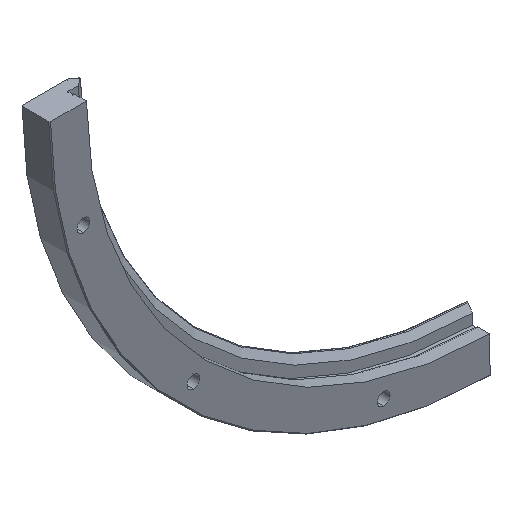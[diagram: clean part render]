
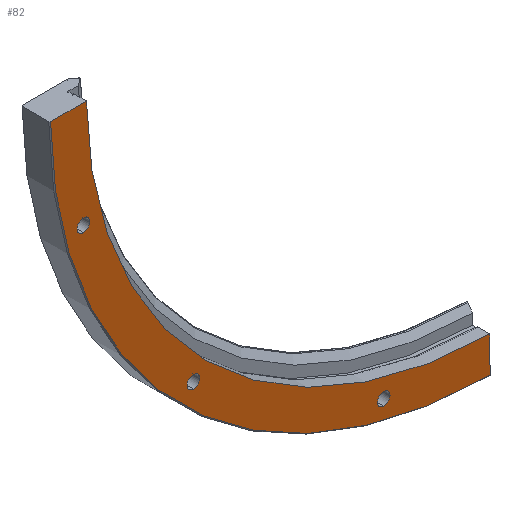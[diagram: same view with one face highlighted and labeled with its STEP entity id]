
A CAD part, isometric view. The second image highlights one B-rep face of the part: STEP entity #82.
In plain terms, the highlighted planar face has unit normal (0, -1, 0).
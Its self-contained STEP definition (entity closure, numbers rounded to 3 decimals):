
#82=ADVANCED_FACE('',(#120,#121,#122,#123),#124,.T.);
#120=FACE_OUTER_BOUND('',#189,.T.);
#121=FACE_BOUND('',#190,.T.);
#122=FACE_BOUND('',#191,.T.);
#123=FACE_BOUND('',#192,.T.);
#124=PLANE('',#193);
#189=EDGE_LOOP('',(#293,#294,#295,#296));
#190=EDGE_LOOP('',(#297,#298));
#191=EDGE_LOOP('',(#299,#300));
#192=EDGE_LOOP('',(#301,#302));
#193=AXIS2_PLACEMENT_3D('',#303,#304,#305);
#293=ORIENTED_EDGE('',*,*,#512,.F.);
#294=ORIENTED_EDGE('',*,*,#513,.T.);
#295=ORIENTED_EDGE('',*,*,#514,.F.);
#296=ORIENTED_EDGE('',*,*,#515,.F.);
#297=ORIENTED_EDGE('',*,*,#516,.T.);
#298=ORIENTED_EDGE('',*,*,#500,.T.);
#299=ORIENTED_EDGE('',*,*,#517,.T.);
#300=ORIENTED_EDGE('',*,*,#508,.T.);
#301=ORIENTED_EDGE('',*,*,#518,.T.);
#302=ORIENTED_EDGE('',*,*,#492,.T.);
#303=CARTESIAN_POINT('',(-240.75,-12.325,0.0));
#304=DIRECTION('',(0.0,-1.0,0.0));
#305=DIRECTION('',(0.0,0.0,-1.0));
#492=EDGE_CURVE('',#575,#576,#577,.T.);
#500=EDGE_CURVE('',#591,#592,#593,.T.);
#508=EDGE_CURVE('',#607,#608,#609,.T.);
#512=EDGE_CURVE('',#615,#616,#617,.T.);
#513=EDGE_CURVE('',#615,#618,#619,.T.);
#514=EDGE_CURVE('',#620,#618,#621,.T.);
#515=EDGE_CURVE('',#616,#620,#622,.T.);
#516=EDGE_CURVE('',#592,#591,#623,.T.);
#517=EDGE_CURVE('',#608,#607,#624,.T.);
#518=EDGE_CURVE('',#576,#575,#625,.T.);
#575=VERTEX_POINT('',#712);
#576=VERTEX_POINT('',#713);
#577=CIRCLE('',#714,3.4);
#591=VERTEX_POINT('',#732);
#592=VERTEX_POINT('',#733);
#593=CIRCLE('',#734,3.4);
#607=VERTEX_POINT('',#752);
#608=VERTEX_POINT('',#753);
#609=CIRCLE('',#754,3.4);
#615=VERTEX_POINT('',#762);
#616=VERTEX_POINT('',#763);
#617=LINE('',#764,#765);
#618=VERTEX_POINT('',#766);
#619=CIRCLE('',#767,221.25);
#620=VERTEX_POINT('',#768);
#621=LINE('',#769,#770);
#622=CIRCLE('',#771,240.75);
#623=CIRCLE('',#772,3.4);
#624=CIRCLE('',#773,3.4);
#625=CIRCLE('',#774,3.4);
#712=CARTESIAN_POINT('',(-59.722,-12.325,-226.287));
#713=CARTESIAN_POINT('',(-59.722,-12.325,-219.487));
#714=AXIS2_PLACEMENT_3D('',#893,#894,#895);
#732=CARTESIAN_POINT('',(-163.165,-12.325,-166.565));
#733=CARTESIAN_POINT('',(-163.165,-12.325,-159.765));
#734=AXIS2_PLACEMENT_3D('',#909,#910,#911);
#752=CARTESIAN_POINT('',(-222.887,-12.325,-63.122));
#753=CARTESIAN_POINT('',(-222.887,-12.325,-56.322));
#754=AXIS2_PLACEMENT_3D('',#925,#926,#927);
#762=CARTESIAN_POINT('',(-2.,-12.325,-221.241));
#763=CARTESIAN_POINT('',(-2.,-12.325,-240.742));
#764=CARTESIAN_POINT('',(-2.,-12.325,-999.998));
#765=VECTOR('',#933,1000.0);
#766=CARTESIAN_POINT('',(-221.241,-12.325,-2.));
#767=AXIS2_PLACEMENT_3D('',#934,#935,#936);
#768=CARTESIAN_POINT('',(-240.742,-12.325,-2.));
#769=CARTESIAN_POINT('',(-999.998,-12.325,-2.));
#770=VECTOR('',#937,1000.0);
#771=AXIS2_PLACEMENT_3D('',#938,#939,#940);
#772=AXIS2_PLACEMENT_3D('',#941,#942,#943);
#773=AXIS2_PLACEMENT_3D('',#944,#945,#946);
#774=AXIS2_PLACEMENT_3D('',#947,#948,#949);
#893=CARTESIAN_POINT('',(-59.722,-12.325,-222.887));
#894=DIRECTION('',(-0.0,1.0,0.0));
#895=DIRECTION('',(0.0,0.0,1.0));
#909=CARTESIAN_POINT('',(-163.165,-12.325,-163.165));
#910=DIRECTION('',(-0.0,1.0,0.0));
#911=DIRECTION('',(0.0,0.0,1.0));
#925=CARTESIAN_POINT('',(-222.887,-12.325,-59.722));
#926=DIRECTION('',(-0.0,1.0,0.0));
#927=DIRECTION('',(0.0,0.0,1.0));
#933=DIRECTION('',(0.,-0.0,-1.0));
#934=CARTESIAN_POINT('',(0.0,-12.325,0.0));
#935=DIRECTION('',(-0.0,1.0,0.0));
#936=DIRECTION('',(0.0,0.0,1.0));
#937=DIRECTION('',(1.0,0.0,0.0));
#938=CARTESIAN_POINT('',(0.0,-12.325,0.0));
#939=DIRECTION('',(-0.0,1.0,0.0));
#940=DIRECTION('',(0.0,0.0,1.0));
#941=CARTESIAN_POINT('',(-163.165,-12.325,-163.165));
#942=DIRECTION('',(-0.0,1.0,0.0));
#943=DIRECTION('',(0.0,0.0,1.0));
#944=CARTESIAN_POINT('',(-222.887,-12.325,-59.722));
#945=DIRECTION('',(-0.0,1.0,0.0));
#946=DIRECTION('',(0.0,0.0,1.0));
#947=CARTESIAN_POINT('',(-59.722,-12.325,-222.887));
#948=DIRECTION('',(-0.0,1.0,0.0));
#949=DIRECTION('',(0.0,0.0,1.0));
